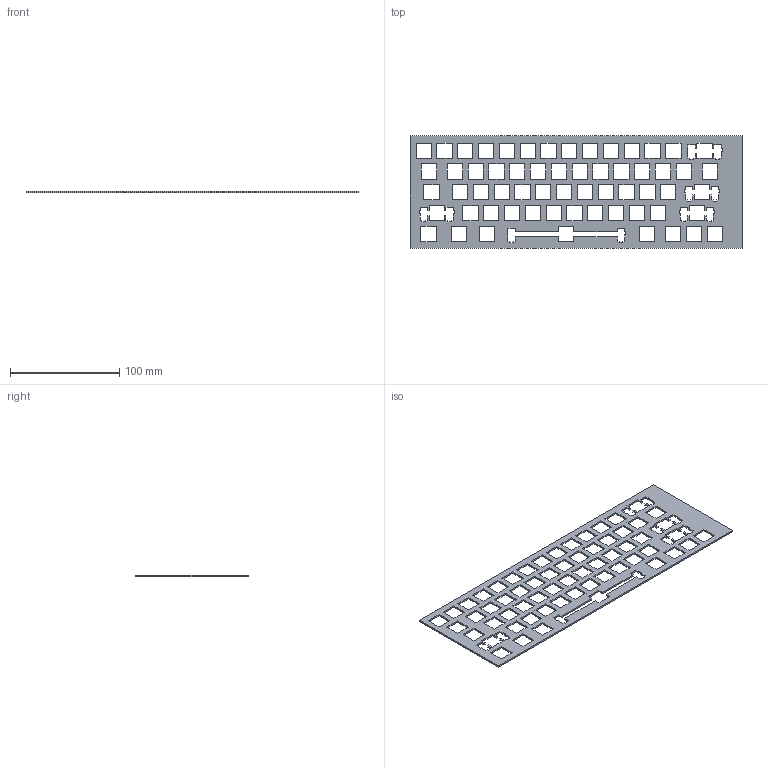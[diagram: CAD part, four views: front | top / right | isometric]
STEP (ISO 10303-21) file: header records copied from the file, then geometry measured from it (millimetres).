
FILE_DESCRIPTION(/* description */ ('STEP AP242 Edition 2','CAx-IF Rec.Pracs.---Representation and Presentation of Product Manufacturing Information (PMI)---4.0---2014-10-13','CAx-IF Rec.Pracs.---3D Tessellated Geometry---0.4---2014-09-14','2;1','CAx-IF Rec.Pracs.---User Defined Attributes---1.5---2016-08-15'),/* implementation_level */ '2;1');
FILE_NAME(/* name */ 'switchplate - Part 1',/* time_stamp */ '2026-11-09T22:13:02Z',/* author */ (''),/* organization */ (''),/* preprocessor_version */ 'ST-DEVELOPER v20',/* originating_system */ 'ONSHAPE BY PTC INC, 1.223',/* authorisation */ ' ');
FILE_SCHEMA (('AP242_MANAGED_MODEL_BASED_3D_ENGINEERING_MIM_LF { 1 0 10303 442 3 1 4 }'));
Length unit declared in the file: metre
Products named in the file (1): Part 1
Bounding box: 303.95 x 102.58 x 1.5 mm (x, y, z)
Volume: 26866.7 mm3; surface area: 42934.4 mm2
Topology: 1 solids, 1 shells, 410 faces, 1224 edges, 816 vertices
Faces by surface type: plane 410
Entity records: 13754 total; most frequent: CARTESIAN_POINT 2451, ORIENTED_EDGE 2448, DIRECTION 2046, EDGE_CURVE 1224, LINE 1224, VECTOR 1224, VERTEX_POINT 816, EDGE_LOOP 532
